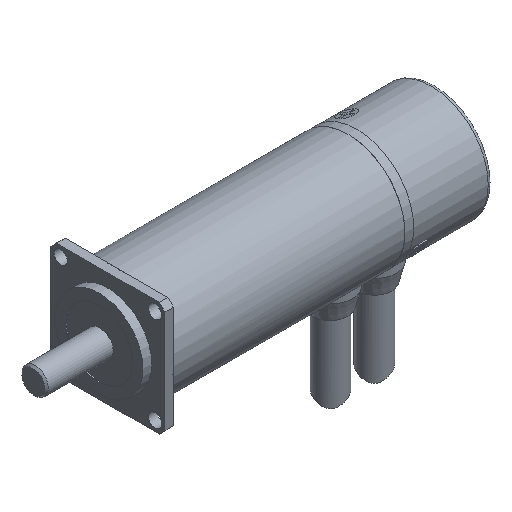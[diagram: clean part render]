
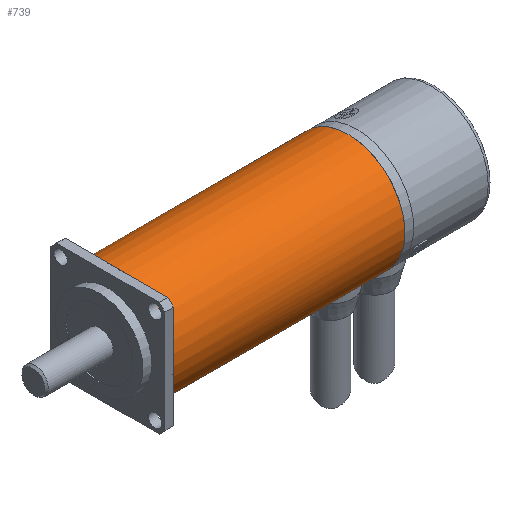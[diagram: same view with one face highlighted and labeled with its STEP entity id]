
A CAD part, isometric view. The second image highlights one B-rep face of the part: STEP entity #739.
In plain terms, the highlighted cylindrical face has radius 6.5 mm (diameter 13 mm), a full revolution.
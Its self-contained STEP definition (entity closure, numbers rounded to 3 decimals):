
#739=ADVANCED_FACE('',(#1070,#1071),#1072,.T.);
#1070=FACE_OUTER_BOUND('',#1448,.T.);
#1071=FACE_OUTER_BOUND('',#1449,.T.);
#1072=CYLINDRICAL_SURFACE('',#1450,6.5);
#1448=EDGE_LOOP('',(#1809,#1810,#1811,#1812));
#1449=EDGE_LOOP('',(#1813,#1814,#1815,#1816));
#1450=AXIS2_PLACEMENT_3D('',#1817,#1818,#1819);
#1809=ORIENTED_EDGE('',*,*,#2551,.T.);
#1810=ORIENTED_EDGE('',*,*,#2552,.T.);
#1811=ORIENTED_EDGE('',*,*,#2553,.T.);
#1812=ORIENTED_EDGE('',*,*,#2554,.T.);
#1813=ORIENTED_EDGE('',*,*,#2549,.T.);
#1814=ORIENTED_EDGE('',*,*,#2555,.T.);
#1815=ORIENTED_EDGE('',*,*,#2556,.T.);
#1816=ORIENTED_EDGE('',*,*,#2557,.T.);
#1817=CARTESIAN_POINT('',(0.0,0.0,0.0));
#1818=DIRECTION('',(-1.0,0.0,0.0));
#1819=DIRECTION('',(0.0,0.0,1.0));
#2549=EDGE_CURVE('',#2843,#2847,#2849,.T.);
#2551=EDGE_CURVE('',#2851,#2852,#2853,.F.);
#2552=EDGE_CURVE('',#2852,#2854,#2855,.F.);
#2553=EDGE_CURVE('',#2854,#2856,#2857,.F.);
#2554=EDGE_CURVE('',#2856,#2851,#2858,.F.);
#2555=EDGE_CURVE('',#2847,#2859,#2860,.F.);
#2556=EDGE_CURVE('',#2859,#2861,#2862,.T.);
#2557=EDGE_CURVE('',#2861,#2843,#2863,.T.);
#2843=VERTEX_POINT('',#3266);
#2847=VERTEX_POINT('',#3300);
#2849=B_SPLINE_CURVE_WITH_KNOTS('',3,(#3303,#3304,#3305,#3306,#3307,#3308,#3309,#3310,#3311,#3312,#3313,#3314,#3315,#3316,#3317,#3318,#3319,#3320,#3321,#3322,#3323,#3324,#3325,#3326,#3327,#3328,#3329,#3330,#3331,#3332),.UNSPECIFIED.,.F.,.F.,(4,2,2,2,2,2,2,2,2,2,2,2,2,2,4),(0.0,0.,0.001,0.001,0.002,0.002,0.003,0.003,0.004,0.004,0.005,0.005,0.006,0.006,0.006),.UNSPECIFIED.);
#2851=VERTEX_POINT('',#3334);
#2852=VERTEX_POINT('',#3335);
#2853=CIRCLE('',#3336,6.5);
#2854=VERTEX_POINT('',#3337);
#2855=CIRCLE('',#3338,6.5);
#2856=VERTEX_POINT('',#3339);
#2857=CIRCLE('',#3340,6.5);
#2858=CIRCLE('',#3341,6.5);
#2859=VERTEX_POINT('',#3342);
#2860=LINE('',#3343,#3344);
#2861=VERTEX_POINT('',#3345);
#2862=CIRCLE('',#3346,6.5);
#2863=LINE('',#3347,#3348);
#3266=CARTESIAN_POINT('',(26.4,2.0,-6.185));
#3300=CARTESIAN_POINT('',(26.4,-2.0,-6.185));
#3303=CARTESIAN_POINT('',(26.4,2.0,-6.185));
#3304=CARTESIAN_POINT('',(26.267,2.0,-6.185));
#3305=CARTESIAN_POINT('',(26.136,1.987,-6.189));
#3306=CARTESIAN_POINT('',(25.88,1.936,-6.205));
#3307=CARTESIAN_POINT('',(25.752,1.897,-6.217));
#3308=CARTESIAN_POINT('',(25.511,1.796,-6.247));
#3309=CARTESIAN_POINT('',(25.396,1.735,-6.265));
#3310=CARTESIAN_POINT('',(25.179,1.59,-6.303));
#3311=CARTESIAN_POINT('',(25.078,1.506,-6.324));
#3312=CARTESIAN_POINT('',(24.803,1.231,-6.385));
#3313=CARTESIAN_POINT('',(24.654,1.009,-6.426));
#3314=CARTESIAN_POINT('',(24.504,0.649,-6.469));
#3315=CARTESIAN_POINT('',(24.465,0.522,-6.48));
#3316=CARTESIAN_POINT('',(24.413,0.264,-6.496));
#3317=CARTESIAN_POINT('',(24.4,0.133,-6.5));
#3318=CARTESIAN_POINT('',(24.4,-0.129,-6.5));
#3319=CARTESIAN_POINT('',(24.413,-0.263,-6.496));
#3320=CARTESIAN_POINT('',(24.464,-0.52,-6.48));
#3321=CARTESIAN_POINT('',(24.502,-0.645,-6.469));
#3322=CARTESIAN_POINT('',(24.654,-1.01,-6.426));
#3323=CARTESIAN_POINT('',(24.801,-1.229,-6.386));
#3324=CARTESIAN_POINT('',(25.078,-1.506,-6.324));
#3325=CARTESIAN_POINT('',(25.178,-1.588,-6.303));
#3326=CARTESIAN_POINT('',(25.393,-1.733,-6.265));
#3327=CARTESIAN_POINT('',(25.51,-1.796,-6.247));
#3328=CARTESIAN_POINT('',(25.751,-1.896,-6.217));
#3329=CARTESIAN_POINT('',(25.876,-1.935,-6.205));
#3330=CARTESIAN_POINT('',(26.134,-1.987,-6.189));
#3331=CARTESIAN_POINT('',(26.267,-2.0,-6.185));
#3332=CARTESIAN_POINT('',(26.4,-2.0,-6.185));
#3334=CARTESIAN_POINT('',(2.0,6.5,0.));
#3335=CARTESIAN_POINT('',(2.0,0.,6.5));
#3336=AXIS2_PLACEMENT_3D('',#3961,#3962,#3963);
#3337=CARTESIAN_POINT('',(2.0,-6.5,0.));
#3338=AXIS2_PLACEMENT_3D('',#3964,#3965,#3966);
#3339=CARTESIAN_POINT('',(2.0,0.0,-6.5));
#3340=AXIS2_PLACEMENT_3D('',#3967,#3968,#3969);
#3341=AXIS2_PLACEMENT_3D('',#3970,#3971,#3972);
#3342=CARTESIAN_POINT('',(28.4,-2.0,-6.185));
#3343=CARTESIAN_POINT('',(0.0,-2.0,-6.185));
#3344=VECTOR('',#3973,1.0);
#3345=CARTESIAN_POINT('',(28.4,2.0,-6.185));
#3346=AXIS2_PLACEMENT_3D('',#3974,#3975,#3976);
#3347=CARTESIAN_POINT('',(0.,2.0,-6.185));
#3348=VECTOR('',#3977,1.0);
#3961=CARTESIAN_POINT('',(2.0,0.0,0.0));
#3962=DIRECTION('',(-1.0,0.0,0.0));
#3963=DIRECTION('',(0.0,0.0,1.0));
#3964=CARTESIAN_POINT('',(2.0,0.0,0.0));
#3965=DIRECTION('',(-1.0,0.0,0.0));
#3966=DIRECTION('',(0.0,0.0,1.0));
#3967=CARTESIAN_POINT('',(2.0,0.0,0.0));
#3968=DIRECTION('',(-1.0,0.0,0.0));
#3969=DIRECTION('',(0.0,0.0,1.0));
#3970=CARTESIAN_POINT('',(2.0,0.0,0.0));
#3971=DIRECTION('',(-1.0,0.0,0.0));
#3972=DIRECTION('',(0.0,0.0,1.0));
#3973=DIRECTION('',(-1.0,0.0,0.0));
#3974=CARTESIAN_POINT('',(28.4,0.0,0.0));
#3975=DIRECTION('',(-1.0,0.0,0.0));
#3976=DIRECTION('',(0.0,0.0,1.0));
#3977=DIRECTION('',(-1.0,0.0,0.0));
